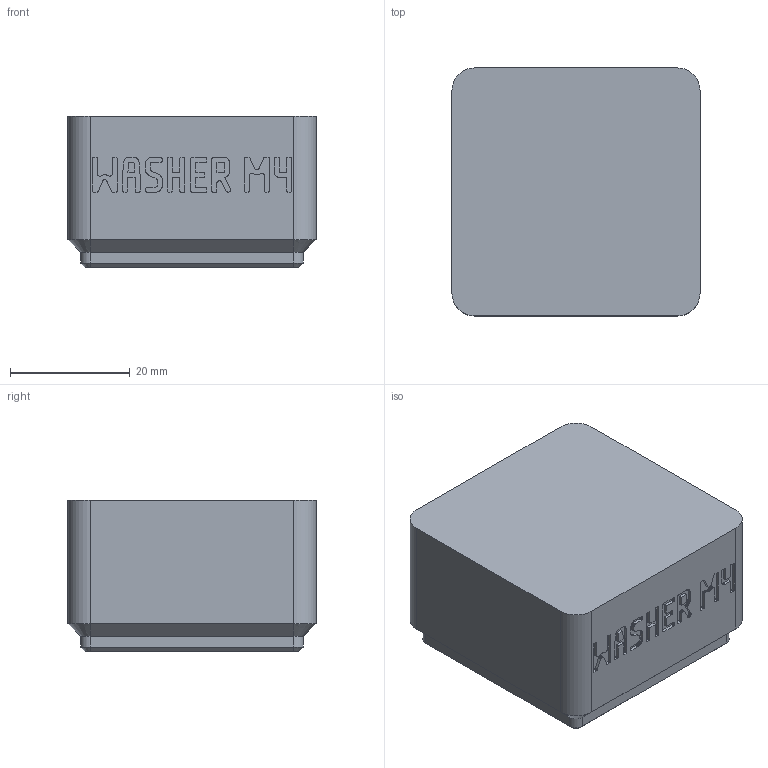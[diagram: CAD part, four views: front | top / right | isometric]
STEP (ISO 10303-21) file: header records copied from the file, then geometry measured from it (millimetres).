
FILE_DESCRIPTION(('Open CASCADE Model'),'2;1');
FILE_NAME('Open CASCADE Shape Model','2026-11-03T16:22:08',('Author'),( 'Open CASCADE'),'Open CASCADE STEP processor 8.0','build123d', 'Unknown');
FILE_SCHEMA(('AUTOMOTIVE_DESIGN { 1 0 10303 214 1 1 1 1 }'));
Products named in the file (1): COMPOUND
Bounding box: 41.5 x 41.5 x 25.4 mm (x, y, z)
Volume: 14642 mm3; surface area: 13621.8 mm2
Topology: 1 solids, 2 shells, 1705 faces, 5000 edges, 3320 vertices
Faces by surface type: plane 1669, cylinder 16, cone 12, bspline 8
Entity records: 120330 total; most frequent: CARTESIAN_POINT 20290, DIRECTION 18296, LINE 14796, VECTOR 14796, ORIENTED_EDGE 10000, PCURVE 10000, DEFINITIONAL_REPRESENTATION 10000, EDGE_CURVE 5000
